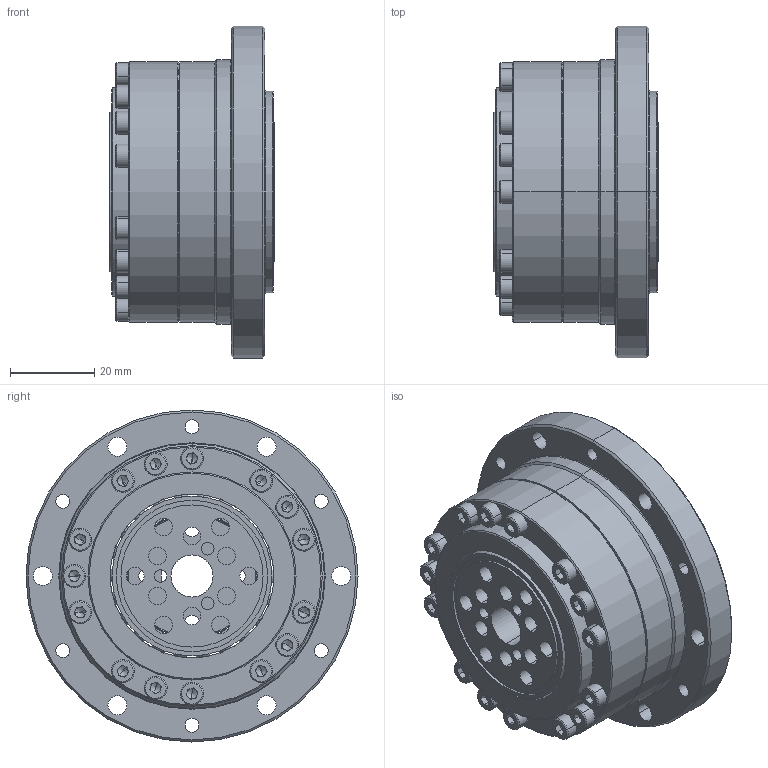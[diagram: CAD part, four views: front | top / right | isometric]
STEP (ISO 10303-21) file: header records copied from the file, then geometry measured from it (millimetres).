
FILE_DESCRIPTION (( 'STEP AP203' ), '1' );
FILE_NAME ('BCS-17-XXX-U-¢ñ.STEP', '2019-01-15T03:10:12', ( 'User' ), ( 'China' ), 'SwSTEP 2.0', 'SolidWorks 2015', '' );
FILE_SCHEMA (( 'CONFIG_CONTROL_DESIGN' ));
Length unit declared in the file: millimetre
Products named in the file (1): BCS-17-XXX-U-ｉ
Bounding box: 39.26 x 79 x 79 mm (x, y, z)
Surface area: 30191 mm2 (no closed solid volume)
Topology: 0 solids, 23 shells, 492 faces, 1553 edges, 980 vertices
Faces by surface type: plane 162, cylinder 133, cone 85, torus 64, sphere 44, bspline 4
Entity records: 18462 total; most frequent: CARTESIAN_POINT 5488, DIRECTION 2829, ORIENTED_EDGE 2448, EDGE_CURVE 1413, AXIS2_PLACEMENT_3D 1120, VERTEX_POINT 914, CIRCLE 631, VECTOR 589
